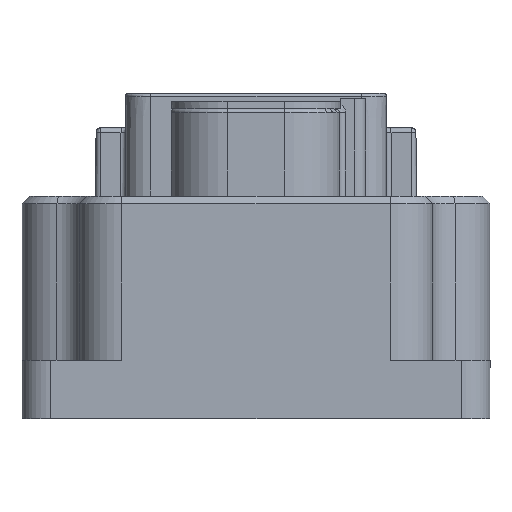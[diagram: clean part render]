
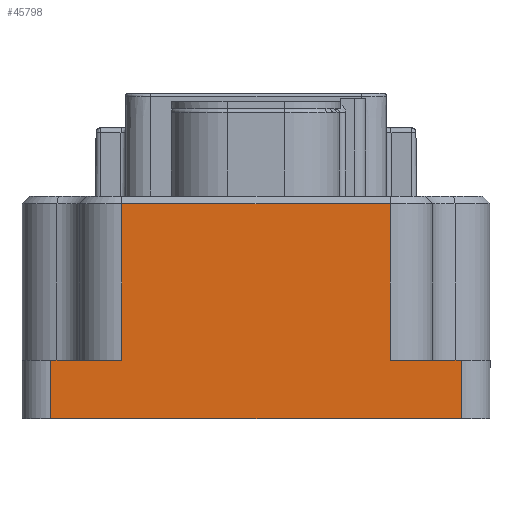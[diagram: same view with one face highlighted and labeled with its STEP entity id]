
A CAD part, left-side view. The second image highlights one B-rep face of the part: STEP entity #45798.
In plain terms, the highlighted planar face has unit normal (-1, 0, 0).
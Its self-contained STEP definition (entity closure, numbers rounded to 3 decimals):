
#2836 = DIRECTION ( 'NONE',  ( 0., 0., -1. ) ) ;
#3972 = ORIENTED_EDGE ( 'NONE', *, *, #57171, .F. ) ;
#4722 = CARTESIAN_POINT ( 'NONE',  ( -72.5, 18.387, 29.45 ) ) ;
#5571 = EDGE_LOOP ( 'NONE', ( #55900, #13834, #25596, #3972, #12477, #71172, #16100, #18798 ) ) ;
#5849 = VECTOR ( 'NONE', #72135, 1000. ) ;
#5994 = CARTESIAN_POINT ( 'NONE',  ( -72.5, -18.387, 258. ) ) ;
#6122 = EDGE_CURVE ( 'NONE', #50383, #51926, #49197, .T. ) ;
#9285 = DIRECTION ( 'NONE',  ( 0., 0., 1. ) ) ;
#10429 = VECTOR ( 'NONE', #9285, 1000. ) ;
#10467 = DIRECTION ( 'NONE',  ( 0., 1., 0. ) ) ;
#12477 = ORIENTED_EDGE ( 'NONE', *, *, #60715, .T. ) ;
#13307 = VERTEX_POINT ( 'NONE', #41506 ) ;
#13834 = ORIENTED_EDGE ( 'NONE', *, *, #50213, .T. ) ;
#13983 = CARTESIAN_POINT ( 'NONE',  ( -72.5, -28.04, 8. ) ) ;
#14734 = LINE ( 'NONE', #4722, #29974 ) ;
#15269 = VERTEX_POINT ( 'NONE', #13983 ) ;
#16100 = ORIENTED_EDGE ( 'NONE', *, *, #37434, .F. ) ;
#16955 = PLANE ( 'NONE',  #35101 ) ;
#18798 = ORIENTED_EDGE ( 'NONE', *, *, #37103, .F. ) ;
#19207 = VECTOR ( 'NONE', #52420, 1000. ) ;
#20767 = CARTESIAN_POINT ( 'NONE',  ( -72.5, 28.04, 0. ) ) ;
#22690 = DIRECTION ( 'NONE',  ( 0., 0., -1. ) ) ;
#22821 = VECTOR ( 'NONE', #2836, 1000. ) ;
#23672 = FACE_OUTER_BOUND ( 'NONE', #5571, .T. ) ;
#23878 = VECTOR ( 'NONE', #66484, 1000. ) ;
#25596 = ORIENTED_EDGE ( 'NONE', *, *, #53715, .F. ) ;
#28634 = CARTESIAN_POINT ( 'NONE',  ( -72.5, -28.04, 0. ) ) ;
#29498 = CARTESIAN_POINT ( 'NONE',  ( -72.5, 28.04, 8. ) ) ;
#29974 = VECTOR ( 'NONE', #10467, 1000. ) ;
#32201 = VECTOR ( 'NONE', #40267, 1000. ) ;
#34393 = LINE ( 'NONE', #46710, #19207 ) ;
#35101 = AXIS2_PLACEMENT_3D ( 'NONE', #73891, #56887, #22690 ) ;
#36316 = CARTESIAN_POINT ( 'NONE',  ( -72.5, 18.387, 29.45 ) ) ;
#37103 = EDGE_CURVE ( 'NONE', #51926, #15269, #64873, .T. ) ;
#37434 = EDGE_CURVE ( 'NONE', #15269, #41443, #34393, .T. ) ;
#39251 = VERTEX_POINT ( 'NONE', #58131 ) ;
#39820 = VERTEX_POINT ( 'NONE', #36316 ) ;
#40267 = DIRECTION ( 'NONE',  ( 0., 0., -1. ) ) ;
#41443 = VERTEX_POINT ( 'NONE', #28634 ) ;
#41506 = CARTESIAN_POINT ( 'NONE',  ( -72.5, 28.04, 0. ) ) ;
#41707 = CARTESIAN_POINT ( 'NONE',  ( -72.5, -18.387, 29.45 ) ) ;
#45129 = CARTESIAN_POINT ( 'NONE',  ( -72.5, 18.387, 8. ) ) ;
#45798 = ADVANCED_FACE ( 'NONE', ( #23672 ), #16955, .F. ) ;
#46710 = CARTESIAN_POINT ( 'NONE',  ( -72.5, -28.04, 30.45 ) ) ;
#46783 = DIRECTION ( 'NONE',  ( 0., -1., 0. ) ) ;
#48932 = VERTEX_POINT ( 'NONE', #45129 ) ;
#49197 = LINE ( 'NONE', #5994, #32201 ) ;
#49686 = CARTESIAN_POINT ( 'NONE',  ( -72.5, -28.04, 8. ) ) ;
#50213 = EDGE_CURVE ( 'NONE', #50383, #39820, #14734, .T. ) ;
#50383 = VERTEX_POINT ( 'NONE', #41707 ) ;
#51926 = VERTEX_POINT ( 'NONE', #72006 ) ;
#52420 = DIRECTION ( 'NONE',  ( 0., 0., -1. ) ) ;
#53408 = VECTOR ( 'NONE', #46783, 1000. ) ;
#53715 = EDGE_CURVE ( 'NONE', #48932, #39820, #71221, .T. ) ;
#53726 = EDGE_CURVE ( 'NONE', #13307, #41443, #69460, .T. ) ;
#54031 = CARTESIAN_POINT ( 'NONE',  ( -72.5, 28.04, 30.45 ) ) ;
#55900 = ORIENTED_EDGE ( 'NONE', *, *, #6122, .F. ) ;
#56887 = DIRECTION ( 'NONE',  ( 1., 0., 0. ) ) ;
#57171 = EDGE_CURVE ( 'NONE', #39251, #48932, #68589, .T. ) ;
#58131 = CARTESIAN_POINT ( 'NONE',  ( -72.5, 28.04, 8. ) ) ;
#60715 = EDGE_CURVE ( 'NONE', #39251, #13307, #68399, .T. ) ;
#64873 = LINE ( 'NONE', #49686, #5849 ) ;
#66484 = DIRECTION ( 'NONE',  ( 0., -1., 0. ) ) ;
#68399 = LINE ( 'NONE', #54031, #22821 ) ;
#68589 = LINE ( 'NONE', #29498, #53408 ) ;
#69460 = LINE ( 'NONE', #20767, #23878 ) ;
#71172 = ORIENTED_EDGE ( 'NONE', *, *, #53726, .T. ) ;
#71221 = LINE ( 'NONE', #71957, #10429 ) ;
#71957 = CARTESIAN_POINT ( 'NONE',  ( -72.5, 18.387, 258. ) ) ;
#72006 = CARTESIAN_POINT ( 'NONE',  ( -72.5, -18.387, 8. ) ) ;
#72135 = DIRECTION ( 'NONE',  ( 0., -1., 0. ) ) ;
#73891 = CARTESIAN_POINT ( 'NONE',  ( -72.5, 28.04, 30.45 ) ) ;
